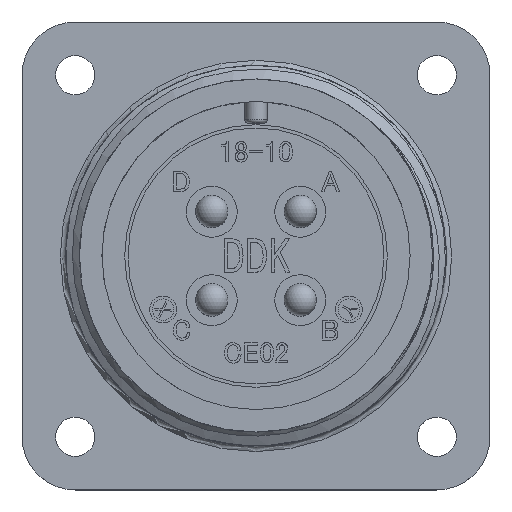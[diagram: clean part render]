
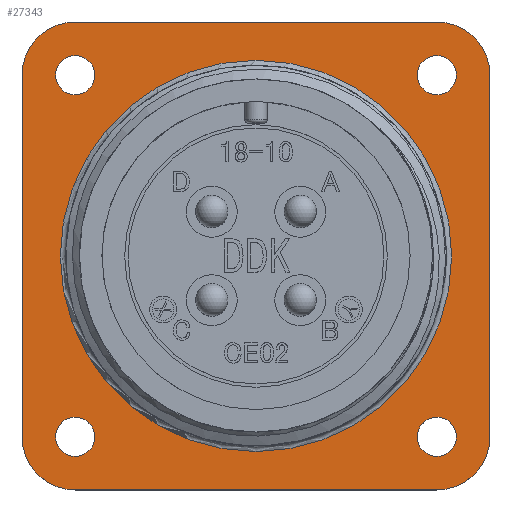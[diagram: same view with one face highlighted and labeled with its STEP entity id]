
A CAD part, top view. The second image highlights one B-rep face of the part: STEP entity #27343.
In plain terms, the highlighted planar face has unit normal (0, 0, 1).
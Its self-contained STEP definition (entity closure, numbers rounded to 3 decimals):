
#121 = DIRECTION ( 'NONE',  ( 0., -1., 0. ) ) ;
#807 = DIRECTION ( 'NONE',  ( 0., 0., -1. ) ) ;
#1011 = VERTEX_POINT ( 'NONE', #17499 ) ;
#1033 = CIRCLE ( 'NONE', #27521, 1.465 ) ;
#1509 = DIRECTION ( 'NONE',  ( 0., 0., -1. ) ) ;
#2588 = EDGE_LOOP ( 'NONE', ( #34381, #8520, #4164, #32940, #30710, #4451, #18644, #30604 ) ) ;
#2733 = EDGE_CURVE ( 'NONE', #12130, #16700, #25527, .T. ) ;
#2832 = VERTEX_POINT ( 'NONE', #8347 ) ;
#3478 = CARTESIAN_POINT ( 'NONE',  ( -17.46, 13.49, -19.24 ) ) ;
#3621 = AXIS2_PLACEMENT_3D ( 'NONE', #32799, #807, #19460 ) ;
#4164 = ORIENTED_EDGE ( 'NONE', *, *, #4870, .F. ) ;
#4279 = VECTOR ( 'NONE', #27786, 1000. ) ;
#4451 = ORIENTED_EDGE ( 'NONE', *, *, #26750, .F. ) ;
#4558 = LINE ( 'NONE', #16272, #11217 ) ;
#4678 = EDGE_CURVE ( 'NONE', #32777, #32777, #12933, .T. ) ;
#4870 = EDGE_CURVE ( 'NONE', #23562, #15151, #21267, .T. ) ;
#5164 = DIRECTION ( 'NONE',  ( -1., 0., 0. ) ) ;
#5236 = CARTESIAN_POINT ( 'NONE',  ( 17.46, 13.49, -19.24 ) ) ;
#5850 = LINE ( 'NONE', #26279, #12142 ) ;
#6033 = VERTEX_POINT ( 'NONE', #13979 ) ;
#6054 = VECTOR ( 'NONE', #121, 1000. ) ;
#6082 = DIRECTION ( 'NONE',  ( -1., 0., 0. ) ) ;
#6498 = EDGE_LOOP ( 'NONE', ( #26416 ) ) ;
#6547 = CARTESIAN_POINT ( 'NONE',  ( 13.49, 13.49, -19.24 ) ) ;
#6753 = CARTESIAN_POINT ( 'NONE',  ( 17.46, 13.49, -19.24 ) ) ;
#6902 = LINE ( 'NONE', #5236, #6054 ) ;
#7048 = VERTEX_POINT ( 'NONE', #32065 ) ;
#7676 = CARTESIAN_POINT ( 'NONE',  ( -13.49, -17.46, -19.24 ) ) ;
#8347 = CARTESIAN_POINT ( 'NONE',  ( 13.49, -17.46, -19.24 ) ) ;
#8404 = FACE_BOUND ( 'NONE', #10759, .T. ) ;
#8520 = ORIENTED_EDGE ( 'NONE', *, *, #10322, .F. ) ;
#8632 = DIRECTION ( 'NONE',  ( 0., 0., -1. ) ) ;
#8835 = FACE_BOUND ( 'NONE', #9004, .T. ) ;
#9004 = EDGE_LOOP ( 'NONE', ( #17826 ) ) ;
#9335 = CARTESIAN_POINT ( 'NONE',  ( 13.49, -13.49, -19.24 ) ) ;
#9639 = DIRECTION ( 'NONE',  ( 0., 0., -1. ) ) ;
#10322 = EDGE_CURVE ( 'NONE', #15151, #26377, #6902, .T. ) ;
#10366 = DIRECTION ( 'NONE',  ( -1., 0., 0. ) ) ;
#10759 = EDGE_LOOP ( 'NONE', ( #15184 ) ) ;
#11217 = VECTOR ( 'NONE', #13587, 1000. ) ;
#11456 = DIRECTION ( 'NONE',  ( 0., 0., -1. ) ) ;
#12130 = VERTEX_POINT ( 'NONE', #7676 ) ;
#12142 = VECTOR ( 'NONE', #10366, 1000. ) ;
#12237 = AXIS2_PLACEMENT_3D ( 'NONE', #25656, #9639, #28348 ) ;
#12933 = CIRCLE ( 'NONE', #24055, 14.6 ) ;
#13087 = LINE ( 'NONE', #3478, #4279 ) ;
#13587 = DIRECTION ( 'NONE',  ( 1., 0., 0. ) ) ;
#13979 = CARTESIAN_POINT ( 'NONE',  ( 12.03, 13.495, -19.24 ) ) ;
#15151 = VERTEX_POINT ( 'NONE', #6753 ) ;
#15184 = ORIENTED_EDGE ( 'NONE', *, *, #17471, .T. ) ;
#15898 = DIRECTION ( 'NONE',  ( 0., 0., -1. ) ) ;
#16013 = CARTESIAN_POINT ( 'NONE',  ( 0., 0., -19.24 ) ) ;
#16183 = EDGE_CURVE ( 'NONE', #27753, #27753, #1033, .T. ) ;
#16272 = CARTESIAN_POINT ( 'NONE',  ( 13.49, 17.46, -19.24 ) ) ;
#16700 = VERTEX_POINT ( 'NONE', #20612 ) ;
#17262 = CARTESIAN_POINT ( 'NONE',  ( 13.495, 13.495, -19.24 ) ) ;
#17420 = EDGE_CURVE ( 'NONE', #19375, #19375, #33568, .T. ) ;
#17471 = EDGE_CURVE ( 'NONE', #6033, #6033, #19335, .T. ) ;
#17499 = CARTESIAN_POINT ( 'NONE',  ( 14.96, -13.495, -19.24 ) ) ;
#17766 = CIRCLE ( 'NONE', #30919, 1.465 ) ;
#17826 = ORIENTED_EDGE ( 'NONE', *, *, #16183, .T. ) ;
#18529 = ORIENTED_EDGE ( 'NONE', *, *, #4678, .T. ) ;
#18644 = ORIENTED_EDGE ( 'NONE', *, *, #2733, .F. ) ;
#18653 = AXIS2_PLACEMENT_3D ( 'NONE', #6547, #11456, #6082 ) ;
#19335 = CIRCLE ( 'NONE', #23548, 1.465 ) ;
#19375 = VERTEX_POINT ( 'NONE', #33035 ) ;
#19381 = CARTESIAN_POINT ( 'NONE',  ( 13.495, -13.495, -19.24 ) ) ;
#19460 = DIRECTION ( 'NONE',  ( -1., 0., 0. ) ) ;
#19987 = EDGE_LOOP ( 'NONE', ( #28144 ) ) ;
#20030 = CARTESIAN_POINT ( 'NONE',  ( 17.46, -13.49, -19.24 ) ) ;
#20039 = AXIS2_PLACEMENT_3D ( 'NONE', #9335, #1509, #30850 ) ;
#20548 = FACE_BOUND ( 'NONE', #26214, .T. ) ;
#20612 = CARTESIAN_POINT ( 'NONE',  ( -17.46, -13.49, -19.24 ) ) ;
#20726 = DIRECTION ( 'NONE',  ( -1., 0., 0. ) ) ;
#21267 = CIRCLE ( 'NONE', #18653, 3.97 ) ;
#21882 = DIRECTION ( 'NONE',  ( 0., 0., -1. ) ) ;
#22022 = AXIS2_PLACEMENT_3D ( 'NONE', #34161, #31376, #20726 ) ;
#23069 = FACE_OUTER_BOUND ( 'NONE', #2588, .T. ) ;
#23548 = AXIS2_PLACEMENT_3D ( 'NONE', #17262, #30488, #32917 ) ;
#23562 = VERTEX_POINT ( 'NONE', #30494 ) ;
#23589 = VERTEX_POINT ( 'NONE', #30600 ) ;
#24055 = AXIS2_PLACEMENT_3D ( 'NONE', #16013, #15898, #5164 ) ;
#24165 = EDGE_CURVE ( 'NONE', #23589, #23562, #4558, .T. ) ;
#24379 = CIRCLE ( 'NONE', #12237, 3.97 ) ;
#24457 = DIRECTION ( 'NONE',  ( 0., 0., -1. ) ) ;
#24645 = CARTESIAN_POINT ( 'NONE',  ( -14.6, 0., -19.24 ) ) ;
#24652 = CARTESIAN_POINT ( 'NONE',  ( -13.495, 13.495, -19.24 ) ) ;
#25060 = EDGE_CURVE ( 'NONE', #26377, #2832, #32911, .T. ) ;
#25527 = CIRCLE ( 'NONE', #30761, 3.97 ) ;
#25656 = CARTESIAN_POINT ( 'NONE',  ( -13.49, 13.49, -19.24 ) ) ;
#26214 = EDGE_LOOP ( 'NONE', ( #18529 ) ) ;
#26279 = CARTESIAN_POINT ( 'NONE',  ( 13.49, -17.46, -19.24 ) ) ;
#26377 = VERTEX_POINT ( 'NONE', #20030 ) ;
#26416 = ORIENTED_EDGE ( 'NONE', *, *, #17420, .T. ) ;
#26497 = EDGE_CURVE ( 'NONE', #7048, #23589, #24379, .T. ) ;
#26750 = EDGE_CURVE ( 'NONE', #16700, #7048, #13087, .T. ) ;
#26937 = CARTESIAN_POINT ( 'NONE',  ( -13.49, -13.49, -19.24 ) ) ;
#27332 = DIRECTION ( 'NONE',  ( 1., 0., 0. ) ) ;
#27343 = ADVANCED_FACE ( 'NONE', ( #20548, #23069, #8404, #33918, #30581, #8835 ), #27905, .F. ) ;
#27521 = AXIS2_PLACEMENT_3D ( 'NONE', #24652, #8632, #27332 ) ;
#27560 = CARTESIAN_POINT ( 'NONE',  ( -12.03, 13.495, -19.24 ) ) ;
#27753 = VERTEX_POINT ( 'NONE', #27560 ) ;
#27786 = DIRECTION ( 'NONE',  ( 0., 1., 0. ) ) ;
#27905 = PLANE ( 'NONE',  #20039 ) ;
#28144 = ORIENTED_EDGE ( 'NONE', *, *, #34305, .T. ) ;
#28348 = DIRECTION ( 'NONE',  ( -1., 0., 0. ) ) ;
#29061 = EDGE_CURVE ( 'NONE', #2832, #12130, #5850, .T. ) ;
#29837 = DIRECTION ( 'NONE',  ( 1., 0., 0. ) ) ;
#29868 = DIRECTION ( 'NONE',  ( -1., 0., 0. ) ) ;
#30488 = DIRECTION ( 'NONE',  ( 0., 0., -1. ) ) ;
#30494 = CARTESIAN_POINT ( 'NONE',  ( 13.49, 17.46, -19.24 ) ) ;
#30581 = FACE_BOUND ( 'NONE', #6498, .T. ) ;
#30600 = CARTESIAN_POINT ( 'NONE',  ( -13.49, 17.46, -19.24 ) ) ;
#30604 = ORIENTED_EDGE ( 'NONE', *, *, #29061, .F. ) ;
#30710 = ORIENTED_EDGE ( 'NONE', *, *, #26497, .F. ) ;
#30761 = AXIS2_PLACEMENT_3D ( 'NONE', #26937, #21882, #29868 ) ;
#30850 = DIRECTION ( 'NONE',  ( -1., 0., 0. ) ) ;
#30919 = AXIS2_PLACEMENT_3D ( 'NONE', #19381, #24457, #29837 ) ;
#31376 = DIRECTION ( 'NONE',  ( 0., 0., -1. ) ) ;
#32065 = CARTESIAN_POINT ( 'NONE',  ( -17.46, 13.49, -19.24 ) ) ;
#32777 = VERTEX_POINT ( 'NONE', #24645 ) ;
#32799 = CARTESIAN_POINT ( 'NONE',  ( -13.495, -13.495, -19.24 ) ) ;
#32911 = CIRCLE ( 'NONE', #22022, 3.97 ) ;
#32917 = DIRECTION ( 'NONE',  ( -1., 0., 0. ) ) ;
#32940 = ORIENTED_EDGE ( 'NONE', *, *, #24165, .F. ) ;
#33035 = CARTESIAN_POINT ( 'NONE',  ( -14.96, -13.495, -19.24 ) ) ;
#33568 = CIRCLE ( 'NONE', #3621, 1.465 ) ;
#33918 = FACE_BOUND ( 'NONE', #19987, .T. ) ;
#34161 = CARTESIAN_POINT ( 'NONE',  ( 13.49, -13.49, -19.24 ) ) ;
#34305 = EDGE_CURVE ( 'NONE', #1011, #1011, #17766, .T. ) ;
#34381 = ORIENTED_EDGE ( 'NONE', *, *, #25060, .F. ) ;
